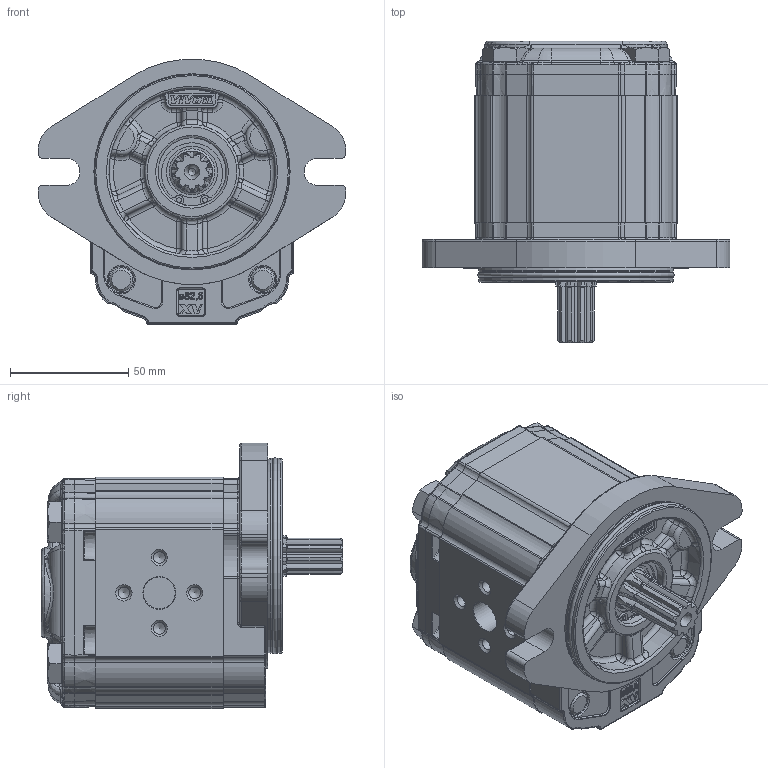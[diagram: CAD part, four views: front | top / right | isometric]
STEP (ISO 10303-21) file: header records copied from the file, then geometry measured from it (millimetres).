
FILE_DESCRIPTION(/* description */ ('Unknown'),/* implementation_level */ '2;1');
FILE_NAME(/* name */ 'X2P4551IOOA',/* time_stamp */ '2020-09-21T10:36:07+02:00',/* author */ ('Unknown'),/* organization */ ('Unknown'),/* preprocessor_version */ 'ST-DEVELOPER v16.7',/* originating_system */ 'DEX',/* authorisation */ $);
FILE_SCHEMA (('AUTOMOTIVE_DESIGN {1 0 10303 214 3 1 1}'));
Products named in the file (5): X2P4551IOOA; X2P51; 2I; X2OOH54; XP219-A
Assembly tree (4 placements, depth 2):
  X2P4551IOOA
    X2P51
    2I
    X2OOH54
    XP219-A
Bounding box: 130.38 x 127.7 x 112.3 mm (x, y, z)
Volume: 710728.9 mm3; surface area: 113528.3 mm2
Topology: 4 solids, 5 shells, 2223 faces, 5483 edges, 3330 vertices
Faces by surface type: cylinder 661, plane 591, bspline 570, torus 247, cone 116, sphere 38
Full cylindrical faces by diameter (mm): 2 x2, 4.917 x4, 5 x4, 10 x4, 10.5 x4, 11 x2, 11.5 x4, 13.5 x2, 16 x4, 17.42 x1, 17.48 x2, 18.724 x1, 20.595 x1, 21.741 x1, 25.834 x1, 28.56 x1, 28.57 x1, 28.8 x1, 30.4 x1, 79.6 x2, 82.5 x2
Entity records: 101724 total; most frequent: CARTESIAN_POINT 39174, ORIENTED_EDGE 10532, DIRECTION 8859, EDGE_CURVE 5266, AXIS2_PLACEMENT_3D 3383, VERTEX_POINT 3266, FACE_BOUND 2446, EDGE_LOOP 2436
